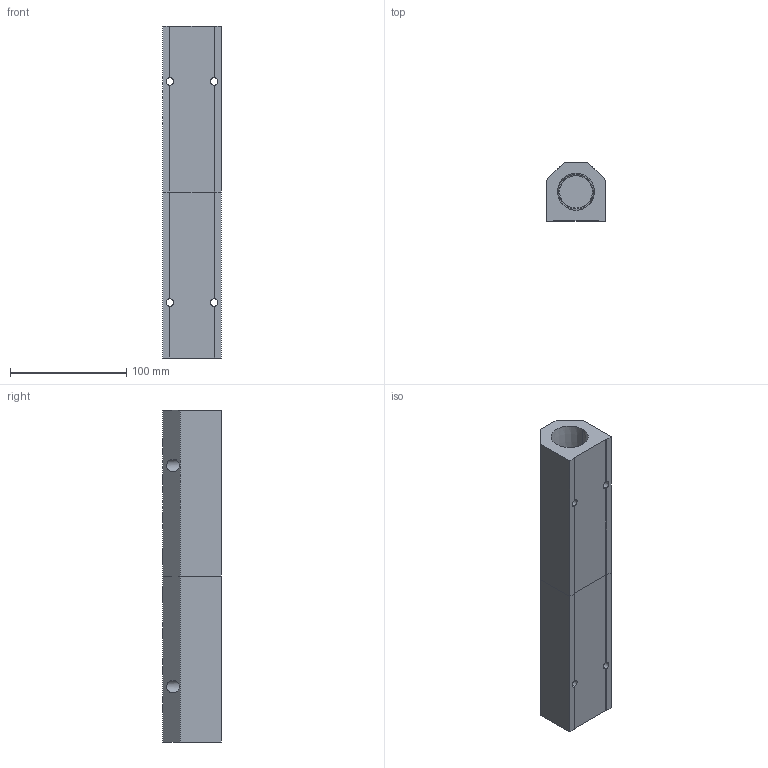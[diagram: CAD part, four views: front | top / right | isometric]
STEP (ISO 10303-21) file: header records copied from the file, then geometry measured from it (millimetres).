
FILE_DESCRIPTION (( 'STEP AP214' ), '1' );
FILE_NAME ('ALM8C-N4N16-286RB.STEP', '2023-11-02T06:16:28', ( '' ), ( '' ), 'SwSTEP 2.0', 'SolidWorks 2020', '' );
FILE_SCHEMA (( 'AUTOMOTIVE_DESIGN' ));
Length unit declared in the file: millimetre
Products named in the file (1): ALM8C-N4N16-286RB
Bounding box: 50.8 x 50.8 x 286 mm (x, y, z)
Volume: 463789.1 mm3; surface area: 92885.3 mm2
Topology: 2 solids, 2 shells, 339 faces, 875 edges, 578 vertices
Faces by surface type: plane 209, bspline 82, cone 24, cylinder 24
Entity records: 18866 total; most frequent: CARTESIAN_POINT 8019, ORIENTED_EDGE 1750, DIRECTION 1259, EDGE_CURVE 875, VECTOR 615, LINE 615, VERTEX_POINT 578, EDGE_LOOP 401
